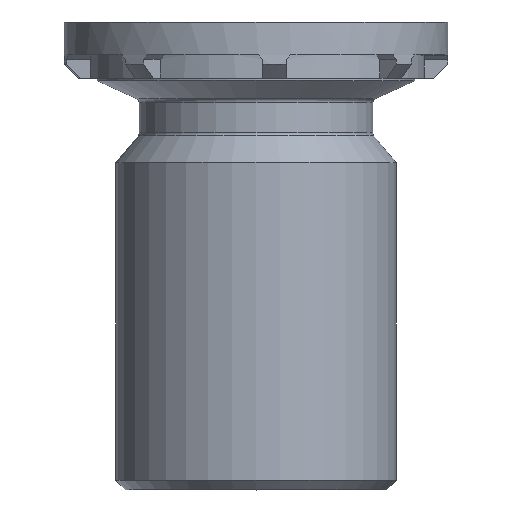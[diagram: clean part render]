
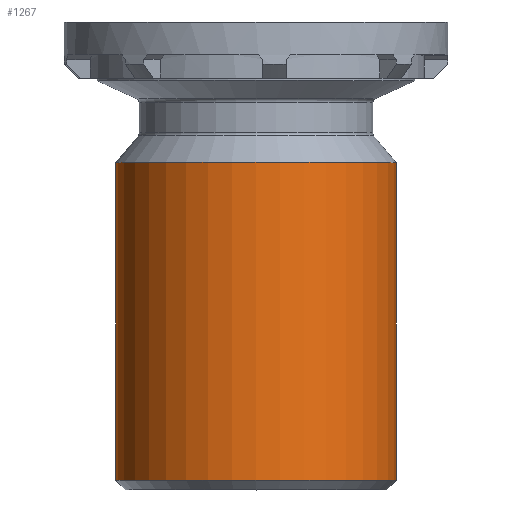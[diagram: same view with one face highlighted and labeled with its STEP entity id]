
A CAD part, top view. The second image highlights one B-rep face of the part: STEP entity #1267.
In plain terms, the highlighted cylindrical face has radius 3 mm (diameter 6 mm), a full revolution.
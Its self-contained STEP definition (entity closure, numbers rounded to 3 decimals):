
#38=CYLINDRICAL_SURFACE('',#1435,3.);
#100=CIRCLE('',#1432,3.);
#101=CIRCLE('',#1433,3.);
#102=CIRCLE('',#1436,3.);
#174=FACE_OUTER_BOUND('',#242,.T.);
#242=EDGE_LOOP('',(#1094,#1095,#1096,#1097,#1098));
#334=LINE('',#2248,#421);
#421=VECTOR('',#1815,3.);
#573=VERTEX_POINT('',#2240);
#574=VERTEX_POINT('',#2242);
#575=VERTEX_POINT('',#2247);
#759=EDGE_CURVE('',#573,#574,#100,.T.);
#760=EDGE_CURVE('',#574,#573,#101,.T.);
#761=EDGE_CURVE('',#574,#575,#334,.T.);
#762=EDGE_CURVE('',#575,#575,#102,.T.);
#1094=ORIENTED_EDGE('',*,*,#759,.F.);
#1095=ORIENTED_EDGE('',*,*,#760,.F.);
#1096=ORIENTED_EDGE('',*,*,#761,.T.);
#1097=ORIENTED_EDGE('',*,*,#762,.T.);
#1098=ORIENTED_EDGE('',*,*,#761,.F.);
#1267=ADVANCED_FACE('',(#174),#38,.T.);
#1432=AXIS2_PLACEMENT_3D('',#2243,#1807,#1808);
#1433=AXIS2_PLACEMENT_3D('',#2244,#1809,#1810);
#1435=AXIS2_PLACEMENT_3D('',#2246,#1813,#1814);
#1436=AXIS2_PLACEMENT_3D('',#2249,#1816,#1817);
#1807=DIRECTION('center_axis',(0.,-1.,0.));
#1808=DIRECTION('ref_axis',(-1.,0.,0.));
#1809=DIRECTION('center_axis',(0.,-1.,0.));
#1810=DIRECTION('ref_axis',(-1.,0.,0.));
#1813=DIRECTION('center_axis',(0.,-1.,0.));
#1814=DIRECTION('ref_axis',(1.,0.,0.));
#1815=DIRECTION('',(0.,1.,0.));
#1816=DIRECTION('center_axis',(0.,-1.,0.));
#1817=DIRECTION('ref_axis',(1.,0.,0.));
#2240=CARTESIAN_POINT('',(3.,0.2,0.));
#2242=CARTESIAN_POINT('',(-3.,0.2,0.));
#2243=CARTESIAN_POINT('Origin',(0.,0.2,0.));
#2244=CARTESIAN_POINT('Origin',(0.,0.2,0.));
#2246=CARTESIAN_POINT('Origin',(0.,3.5,0.));
#2247=CARTESIAN_POINT('',(-3.,7.,0.));
#2248=CARTESIAN_POINT('',(-3.,3.5,0.));
#2249=CARTESIAN_POINT('Origin',(0.,7.,0.));
